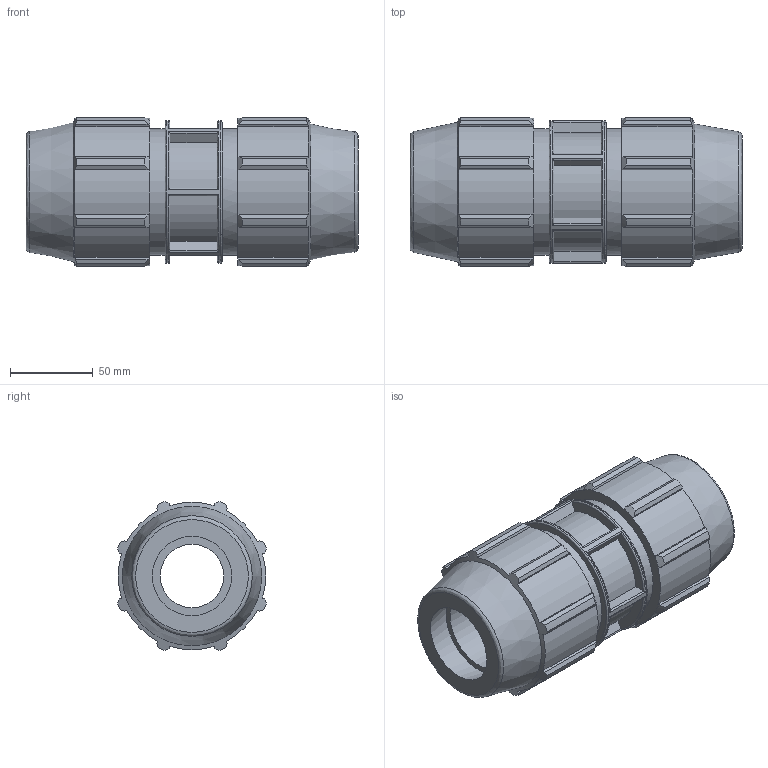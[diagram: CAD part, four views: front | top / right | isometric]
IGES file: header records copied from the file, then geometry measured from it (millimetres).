
Global section: file name: 0701M015.ipt; native system: Autodesk Inventor 2019; preprocessor: unknown; author: KIM; date: 20210826.124351; units: inch
Bounding box: 200.91 x 90.34 x 90.34 mm (x, y, z)
Volume: 711047.8 mm3; surface area: 105761.3 mm2
Topology: 1 solids, 1 shells, 193 faces, 546 edges, 368 vertices
Faces by surface type: plane 98, cylinder 53, revolution 22, cone 20
Full cylindrical faces by diameter (mm): 76.81 x2, 86.411 x1
